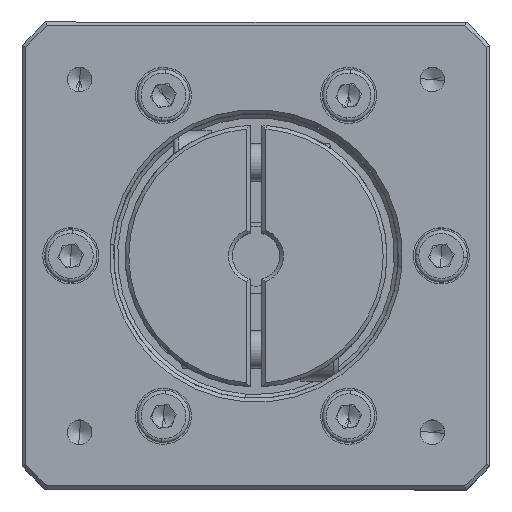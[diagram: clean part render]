
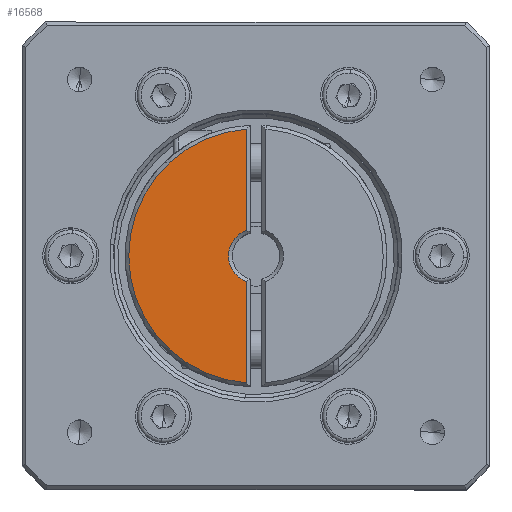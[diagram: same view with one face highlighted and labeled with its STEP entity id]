
A CAD part, top view. The second image highlights one B-rep face of the part: STEP entity #16568.
In plain terms, the highlighted planar face has unit normal (0, 0, 1).
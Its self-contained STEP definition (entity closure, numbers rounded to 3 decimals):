
#3425 = FACE_OUTER_BOUND ( 'NONE', #67412, .T. ) ;
#4499 = VERTEX_POINT ( 'NONE', #59430 ) ;
#6738 = CARTESIAN_POINT ( 'NONE',  ( -93.756, 50.427, 25.297 ) ) ;
#9408 = ORIENTED_EDGE ( 'NONE', *, *, #56965, .T. ) ;
#10473 = DIRECTION ( 'NONE',  ( 0., 1., 0. ) ) ;
#11950 = ORIENTED_EDGE ( 'NONE', *, *, #82885, .T. ) ;
#14540 = CARTESIAN_POINT ( 'NONE',  ( -92.506, 71.383, 25.297 ) ) ;
#14826 = DIRECTION ( 'NONE',  ( 0., 0., -1. ) ) ;
#16568 = ADVANCED_FACE ( 'NONE', ( #3425 ), #90676, .F. ) ;
#16690 = ORIENTED_EDGE ( 'NONE', *, *, #54501, .F. ) ;
#22582 = LINE ( 'NONE', #46956, #65290 ) ;
#23140 = DIRECTION ( 'NONE',  ( -0.997, 0.078, 0. ) ) ;
#29466 = VECTOR ( 'NONE', #10473, 1000. ) ;
#38469 = VERTEX_POINT ( 'NONE', #74135 ) ;
#38496 = CIRCLE ( 'NONE', #65532, 3.675 ) ;
#41691 = VERTEX_POINT ( 'NONE', #65655 ) ;
#44051 = CARTESIAN_POINT ( 'NONE',  ( -93.756, 58.206, 25.297 ) ) ;
#44354 = EDGE_CURVE ( 'NONE', #38469, #4499, #98267, .T. ) ;
#46668 = DIRECTION ( 'NONE',  ( 0., 0., 1. ) ) ;
#46956 = CARTESIAN_POINT ( 'NONE',  ( -93.756, 49.56, 25.297 ) ) ;
#50823 = AXIS2_PLACEMENT_3D ( 'NONE', #14540, #74252, #23140 ) ;
#54501 = EDGE_CURVE ( 'NONE', #41691, #84072, #38496, .T. ) ;
#55564 = DIRECTION ( 'NONE',  ( 0., 1., 0. ) ) ;
#56965 = EDGE_CURVE ( 'NONE', #41691, #4499, #74937, .T. ) ;
#59430 = CARTESIAN_POINT ( 'NONE',  ( -93.756, 70.837, 25.297 ) ) ;
#65290 = VECTOR ( 'NONE', #55564, 1000. ) ;
#65532 = AXIS2_PLACEMENT_3D ( 'NONE', #97813, #46668, #106363 ) ;
#65655 = CARTESIAN_POINT ( 'NONE',  ( -93.756, 57.339, 25.297 ) ) ;
#65978 = CARTESIAN_POINT ( 'NONE',  ( -92.506, 53.883, 25.297 ) ) ;
#67412 = EDGE_LOOP ( 'NONE', ( #11950, #16690, #9408, #104897 ) ) ;
#74135 = CARTESIAN_POINT ( 'NONE',  ( -93.756, 36.929, 25.297 ) ) ;
#74252 = DIRECTION ( 'NONE',  ( 0., 0., -1. ) ) ;
#74560 = DIRECTION ( 'NONE',  ( 0.078, 0.997, 0. ) ) ;
#74665 = AXIS2_PLACEMENT_3D ( 'NONE', #65978, #14826, #74560 ) ;
#74937 = LINE ( 'NONE', #44051, #29466 ) ;
#82885 = EDGE_CURVE ( 'NONE', #38469, #84072, #22582, .T. ) ;
#84072 = VERTEX_POINT ( 'NONE', #6738 ) ;
#90676 = PLANE ( 'NONE',  #50823 ) ;
#97813 = CARTESIAN_POINT ( 'NONE',  ( -92.506, 53.883, 25.297 ) ) ;
#98267 = CIRCLE ( 'NONE', #74665, 17. ) ;
#104897 = ORIENTED_EDGE ( 'NONE', *, *, #44354, .F. ) ;
#106363 = DIRECTION ( 'NONE',  ( -0.078, -0.997, 0. ) ) ;
